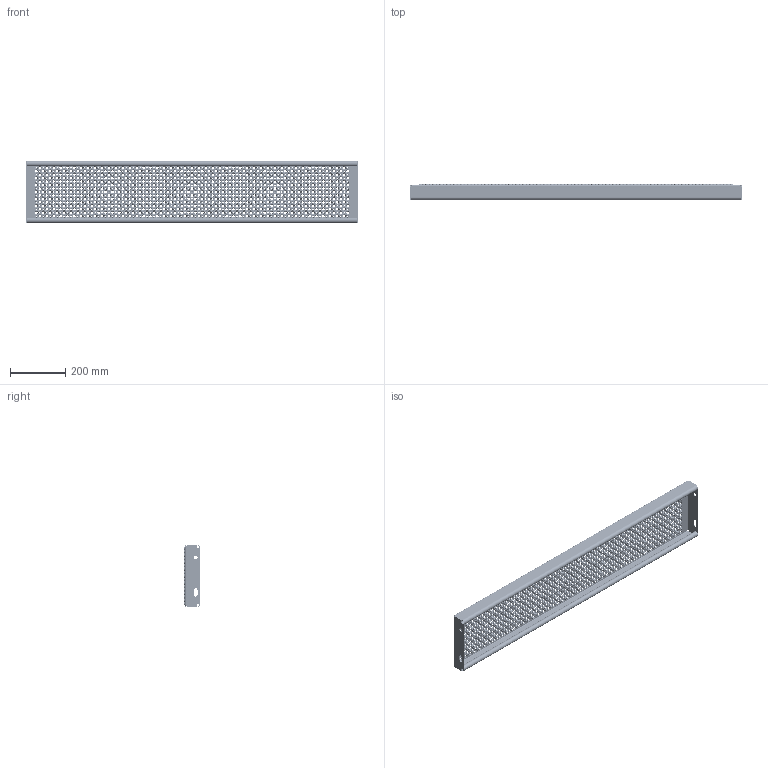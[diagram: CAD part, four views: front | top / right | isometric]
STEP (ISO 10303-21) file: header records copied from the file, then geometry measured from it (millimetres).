
FILE_DESCRIPTION (( 'STEP AP214' ), '1' );
FILE_NAME ('OPTIMO-Tread-Achil-O2-1200x225x57x2-st240-F100210100.STEP', '2021-03-16T07:15:46', ( '' ), ( '' ), 'SwSTEP 2.0', 'SolidWorks 2021', '' );
FILE_SCHEMA (( 'AUTOMOTIVE_DESIGN' ));
Length unit declared in the file: millimetre
Products named in the file (1): OPTIMO-Tread-Achil-O2-1200x225x57x2-st240-F100210100
Bounding box: 1200 x 57 x 225 mm (x, y, z)
Volume: 1017311 mm3; surface area: 1099742.8 mm2
Topology: 1 solids, 1 shells, 15552 faces, 40422 edges, 24872 vertices
Faces by surface type: cone 9282, torus 6188, plane 38, cylinder 36, bspline 8
Entity records: 494860 total; most frequent: DIRECTION 102476, CARTESIAN_POINT 81439, ORIENTED_EDGE 80844, AXIS2_PLACEMENT_3D 46541, EDGE_CURVE 40422, CIRCLE 30996, VERTEX_POINT 24872, EDGE_LOOP 18654
